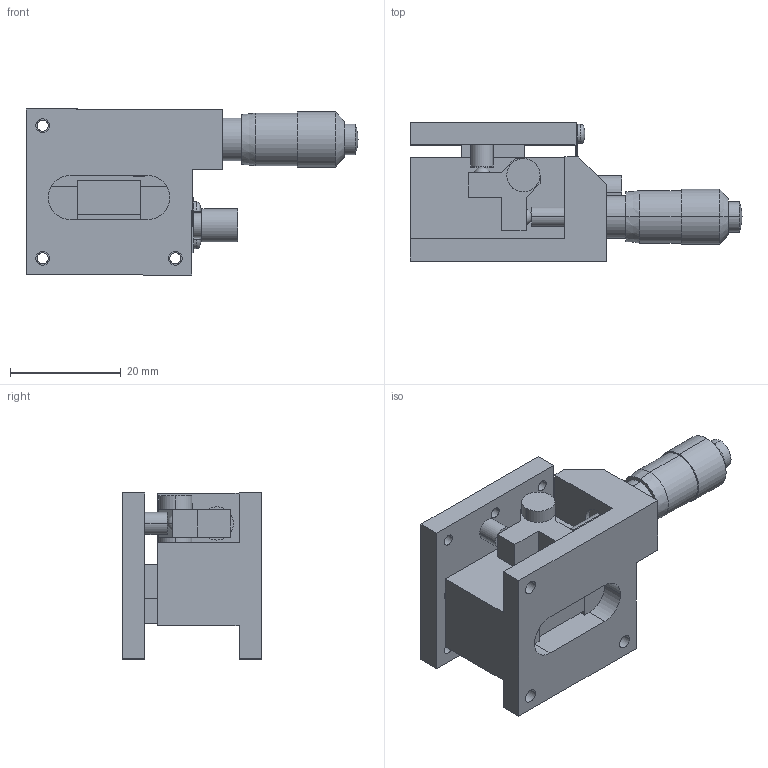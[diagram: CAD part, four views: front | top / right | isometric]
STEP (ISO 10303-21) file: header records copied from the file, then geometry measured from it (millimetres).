
FILE_DESCRIPTION (( 'STEP AP203' ), '1' );
FILE_NAME ('LV-337-1.STEP', '2008-01-28T02:25:32', ( '' ), ( '' ), 'SwSTEP 2.0', 'SolidWorks 2007', '' );
FILE_SCHEMA (( 'CONFIG_CONTROL_DESIGN' ));
Length unit declared in the file: millimetre
Products named in the file (5): LV-337-1; LV-337-1-3_蹬怮椔; LV-337-1-4_蹬怮椔; LV-337-1-2_蹬怮椔; LV-337-1-1_蹬怮椔
Assembly tree (4 placements, depth 2):
  LV-337-1
    LV-337-1-2_蹬怮椔
    LV-337-1-4_蹬怮椔
    LV-337-1-1_蹬怮椔
    LV-337-1-3_蹬怮椔
Bounding box: 60 x 25 x 30 mm (x, y, z)
Volume: 16172.4 mm3; surface area: 11274.9 mm2
Topology: 4 solids, 4 shells, 180 faces, 428 edges, 277 vertices
Faces by surface type: plane 84, cylinder 74, cone 8, sphere 8, torus 6
Entity records: 5815 total; most frequent: DIRECTION 990, CARTESIAN_POINT 890, ORIENTED_EDGE 852, EDGE_CURVE 426, AXIS2_PLACEMENT_3D 377, VERTEX_POINT 277, VECTOR 236, LINE 236
